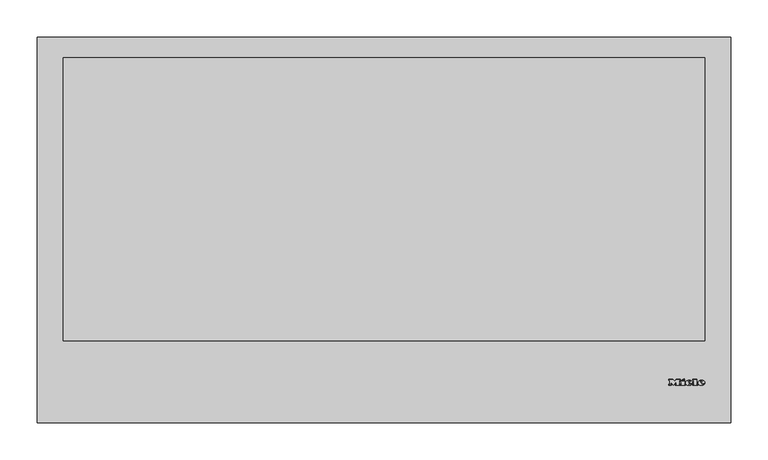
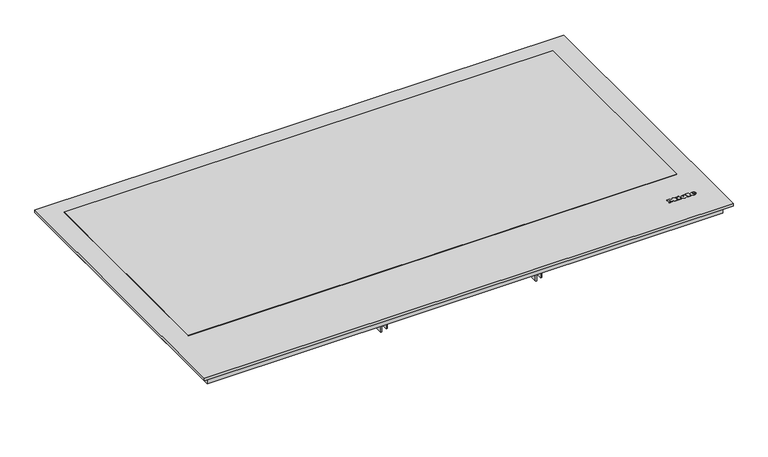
"""IFC4 building model written with IfcOpenShell, lengths in millimetres: proxy geometry, 11144090_GB_KM7697FL : 26769770_GB_11144090_KM7697FL."""

from ifc_helpers import new_model, si_unit, point, frame, frame_2d, origin, origin_with_axes, place, context, project, spatial, polyline, circle_curve, ellipse_curve, trimmed, segment, composite_curve, outline, extrude, source, transform, mapped, element, save
from ifc_brep_helpers import plane_surface, cylinder_surface, revolved_surface, extruded_surface, advanced_brep


def specialty_equipment_4523ea2d(model_context):
    return source(origin(), model_context, "Body", "SolidModel", [
        advanced_brep(
        [(427.56, 52.3948833, 4.4802537), (427.56, 53.2028828, 4.4811551), (432.912, 53.2028828, 4.4811551), (423.6, 53.2028828, 4.4811551), (425.8, 50.4988845, 4.4781386), (432.776, 52.3948833, 4.4802537), (430.36, 52.3948833, 4.4802537), (428.456, 51.4988838, 4.4792542), (427.56, 54.2268821, 4.4822974), (427.56, 55.0988816, 4.4832701), (428.928, 55.0988816, 4.4832701), (428.928, 54.2268821, 4.4822974), (427.56, 52.3959988, 3.4802543), (428.456, 51.4999994, 3.4792548), (430.36, 52.3959988, 3.4802543), (432.776, 52.3959988, 3.4802543), (425.8, 50.5, 3.4781393), (423.6, 53.2039983, 3.4811557), (432.912, 53.2039983, 3.4811557), (427.56, 53.2039983, 3.4811557), (427.56, 54.2279977, 3.482298), (428.928, 54.2279977, 3.482298), (428.928, 55.0999971, 3.4832707), (427.56, 55.0999971, 3.4832707)],
        [
            (0, 1),
            (1, 2),
            (2, 3, ellipse_curve(frame((428.256, 53.2028828, 4.4811551), z_axis=(0.0, -0.0011155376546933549, 0.9999993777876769), x_axis=(-1.0, 0.0, 0.0)), 4.656, 3.848)),
            (3, 4, circle_curve(frame((426.6960436, 53.4748826, 4.4814585), z_axis=(0.0, -0.0011155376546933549, 0.9999993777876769), x_axis=(0.0, -0.9999993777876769, -0.0011155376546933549)), 3.1079688)),
            (4, 5, circle_curve(frame((428.1627936, 55.5868813, 4.4838145), z_axis=(0.0, -0.0011155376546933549, 0.9999993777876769), x_axis=(0.0, -0.9999993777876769, -0.0011155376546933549)), 5.6098607)),
            (5, 6),
            (6, 7, circle_curve(frame((428.8470588, 53.1388828, 4.4810837), z_axis=(0.0, 0.0011155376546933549, -0.9999993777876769), x_axis=(0.0, -0.9999993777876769, -0.0011155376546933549)), 1.6859795)),
            (7, 0, circle_curve(frame((428.456, 52.3948833, 4.4802537), z_axis=(0.0, 0.0011155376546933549, -0.9999993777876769), x_axis=(0.0, -0.9999993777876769, -0.0011155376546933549)), 0.896)),
            (8, 9),
            (9, 10, circle_curve(frame((428.244, 55.0988816, 4.4832701), z_axis=(0.0, 0.0011155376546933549, -0.9999993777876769), x_axis=(0.0, -0.9999993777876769, -0.0011155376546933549)), 0.684)),
            (10, 11),
            (11, 8),
            (12, 13, circle_curve(frame((428.456, 52.3959988, 3.4802543), z_axis=(0.0, -0.0011155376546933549, 0.9999993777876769), x_axis=(0.0, -0.9999993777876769, -0.0011155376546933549)), 0.896)),
            (13, 14, circle_curve(frame((428.8470588, 53.1399984, 3.4810843), z_axis=(0.0, -0.0011155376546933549, 0.9999993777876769), x_axis=(0.0, -0.9999993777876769, -0.0011155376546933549)), 1.6859795)),
            (14, 15),
            (15, 16, circle_curve(frame((428.1627936, 55.5879968, 3.4838151), z_axis=(0.0, 0.0011155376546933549, -0.9999993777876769), x_axis=(0.0, -0.9999993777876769, -0.0011155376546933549)), 5.6098607)),
            (16, 17, circle_curve(frame((426.6960436, 53.4759981, 3.4814591), z_axis=(0.0, 0.0011155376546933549, -0.9999993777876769), x_axis=(0.0, -0.9999993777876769, -0.0011155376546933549)), 3.1079688)),
            (17, 18, ellipse_curve(frame((428.256, 53.2039983, 3.4811557), z_axis=(0.0, 0.0011155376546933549, -0.9999993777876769), x_axis=(-1.0, 0.0, 0.0)), 4.656, 3.848)),
            (18, 19),
            (19, 12),
            (20, 21),
            (21, 22),
            (22, 23, circle_curve(frame((428.244, 55.0999971, 3.4832707), z_axis=(0.0, -0.0011155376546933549, 0.9999993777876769), x_axis=(0.0, -0.9999993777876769, -0.0011155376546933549)), 0.684)),
            (23, 20),
            (0, 12),
            (19, 1),
            (18, 2),
            (5, 15),
            (14, 6),
            (17, 3),
            (13, 7),
            (16, 4),
            (8, 20),
            (23, 9),
            (22, 10),
            (21, 11),
        ],
        [
            plane_surface(frame((427.56, 53.2028828, 4.4811551), z_axis=(0.0, -0.0011155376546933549, 0.9999993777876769), x_axis=(0.0, 0.9999993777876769, 0.0011155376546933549))),
            plane_surface(frame((427.56, 53.2039983, 3.4811557), z_axis=(0.0, 0.0011155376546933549, -0.9999993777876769), x_axis=(0.0, -0.9999993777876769, -0.0011155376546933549))),
            plane_surface(frame((427.56, 52.3948833, 4.4802537), z_axis=(1.0000000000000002, 0.0, 0.0), x_axis=(0.0, 0.001115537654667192, -0.999999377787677))),
            plane_surface(frame((427.56, 53.2028828, 4.4811551), z_axis=(0.0, -0.999999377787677, -0.001115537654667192), x_axis=(0.0, 0.001115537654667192, -0.999999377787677))),
            plane_surface(frame((432.776, 52.3948833, 4.4802537), z_axis=(0.0, 0.999999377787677, 0.001115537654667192), x_axis=(0.0, 0.001115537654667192, -0.999999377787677))),
            extruded_surface(trimmed(ellipse_curve(frame((428.256, 53.2051139, 2.4811563), z_axis=(0.0, -0.0011155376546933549, 0.9999993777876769), x_axis=(-1.0, 0.0, 0.0)), 4.656, 3.848), [point((432.912, 53.2051139, 2.4811563))], [point((423.6, 53.2051139, 2.4811563))], True, "CARTESIAN"), (0.0, -0.001115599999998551, 0.9999994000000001), 1.00000002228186),
            revolved_surface(polyline([(428.8470588, 51.454019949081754, 3.479203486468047), (428.8470588, 51.45290441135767, 4.4792029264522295)]), (428.8470588, 53.1399984, 3.4810843), (0.0, 0.0011155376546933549, -0.9999993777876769)),
            revolved_surface(polyline([(428.456, 51.49999935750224, 3.4792547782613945), (428.456, 51.49888381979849, 4.479254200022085)]), (428.456, 52.3959988, 3.4802543), (0.0, 0.0011155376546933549, -0.9999993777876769)),
            cylinder_surface(frame((426.6960436, 53.4759981, 3.4814591), z_axis=(0.0, -0.0011155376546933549, 0.9999993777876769), x_axis=(0.0, -0.9999993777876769, -0.0011155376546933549)), 3.1079688),
            cylinder_surface(frame((428.1627936, 55.5879968, 3.4838151), z_axis=(0.0, -0.0011155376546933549, 0.9999993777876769), x_axis=(0.0, -0.9999993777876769, -0.0011155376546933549)), 5.6098607),
            plane_surface(frame((427.56, 54.2268821, 4.4822974), z_axis=(1.0000000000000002, 0.0, 0.0), x_axis=(0.0, 0.001115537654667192, -0.999999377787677))),
            revolved_surface(polyline([(428.244, 54.415997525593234, 3.4825076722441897), (428.244, 54.41488198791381, 4.482507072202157)]), (428.244, 55.0999971, 3.4832707), (0.0, 0.0011155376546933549, -0.9999993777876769)),
            plane_surface(frame((428.928, 55.0988816, 4.4832701), z_axis=(-1.0000000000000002, 0.0, 0.0), x_axis=(0.0, 0.001115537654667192, -0.999999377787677))),
            plane_surface(frame((428.928, 54.2268821, 4.4822974), z_axis=(0.0, 0.999999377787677, 0.001115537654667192), x_axis=(0.0, 0.001115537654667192, -0.999999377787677))),
        ],
        [
            (0, [[1, 2, 3, 4, 5, 6, 7, 8], [9, 10, 11, 12]]),
            (1, [[13, 14, 15, 16, 17, 18, 19, 20], [21, 22, 23, 24]]),
            (2, [[-1, 25, -20, 26]]),
            (3, [[-2, -26, -19, 27]]),
            (4, [[-6, 28, -15, 29]]),
            (5, [[-3, -27, -18, 30]]),
            (6, [[-7, -29, -14, 31]]),
            (7, [[-8, -31, -13, -25]]),
            (8, [[-4, -30, -17, 32]]),
            (9, [[-5, -32, -16, -28]]),
            (10, [[-9, 33, -24, 34]]),
            (11, [[-10, -34, -23, 35]]),
            (12, [[-11, -35, -22, 36]]),
            (13, [[-12, -36, -21, -33]]),
        ],
    ),
        advanced_brep(
        [(410.864, 52.3948833, 4.4802537), (410.864, 53.2028828, 4.4811551), (416.216, 53.2028828, 4.4811551), (406.904, 53.2028828, 4.4811551), (409.104, 50.4988845, 4.4781386), (416.08, 52.3948833, 4.4802537), (413.664, 52.3948833, 4.4802537), (411.76, 51.4988838, 4.4792542), (410.864, 54.2268821, 4.4822974), (410.864, 55.0988816, 4.4832701), (412.232, 55.0988816, 4.4832701), (412.232, 54.2268821, 4.4822974), (410.864, 52.3959988, 3.4802543), (411.76, 51.4999994, 3.4792548), (413.664, 52.3959988, 3.4802543), (416.08, 52.3959988, 3.4802543), (409.104, 50.5, 3.4781393), (406.904, 53.2039983, 3.4811557), (416.216, 53.2039983, 3.4811557), (410.864, 53.2039983, 3.4811557), (410.864, 54.2279977, 3.482298), (412.232, 54.2279977, 3.482298), (412.232, 55.0999971, 3.4832707), (410.864, 55.0999971, 3.4832707)],
        [
            (0, 1),
            (1, 2),
            (2, 3, ellipse_curve(frame((411.56, 53.2028828, 4.4811551), z_axis=(0.0, -0.0011155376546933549, 0.9999993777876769), x_axis=(-1.0, 0.0, 0.0)), 4.656, 3.848)),
            (3, 4, circle_curve(frame((410.0000436, 53.4748826, 4.4814585), z_axis=(0.0, -0.0011155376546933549, 0.9999993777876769), x_axis=(0.0, -0.9999993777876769, -0.0011155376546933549)), 3.1079688)),
            (4, 5, circle_curve(frame((411.4667936, 55.5868813, 4.4838145), z_axis=(0.0, -0.0011155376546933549, 0.9999993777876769), x_axis=(0.0, -0.9999993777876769, -0.0011155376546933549)), 5.6098607)),
            (5, 6),
            (6, 7, circle_curve(frame((412.1510588, 53.1388828, 4.4810837), z_axis=(0.0, 0.0011155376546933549, -0.9999993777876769), x_axis=(0.0, -0.9999993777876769, -0.0011155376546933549)), 1.6859795)),
            (7, 0, circle_curve(frame((411.76, 52.3948833, 4.4802537), z_axis=(0.0, 0.0011155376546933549, -0.9999993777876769), x_axis=(0.0, -0.9999993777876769, -0.0011155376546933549)), 0.896)),
            (8, 9),
            (9, 10, circle_curve(frame((411.548, 55.0988816, 4.4832701), z_axis=(0.0, 0.0011155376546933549, -0.9999993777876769), x_axis=(0.0, -0.9999993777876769, -0.0011155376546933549)), 0.684)),
            (10, 11),
            (11, 8),
            (12, 13, circle_curve(frame((411.76, 52.3959988, 3.4802543), z_axis=(0.0, -0.0011155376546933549, 0.9999993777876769), x_axis=(0.0, -0.9999993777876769, -0.0011155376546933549)), 0.896)),
            (13, 14, circle_curve(frame((412.1510588, 53.1399984, 3.4810843), z_axis=(0.0, -0.0011155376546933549, 0.9999993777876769), x_axis=(0.0, -0.9999993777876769, -0.0011155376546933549)), 1.6859795)),
            (14, 15),
            (15, 16, circle_curve(frame((411.4667936, 55.5879968, 3.4838151), z_axis=(0.0, 0.0011155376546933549, -0.9999993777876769), x_axis=(0.0, -0.9999993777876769, -0.0011155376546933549)), 5.6098607)),
            (16, 17, circle_curve(frame((410.0000436, 53.4759981, 3.4814591), z_axis=(0.0, 0.0011155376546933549, -0.9999993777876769), x_axis=(0.0, -0.9999993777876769, -0.0011155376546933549)), 3.1079688)),
            (17, 18, ellipse_curve(frame((411.56, 53.2039983, 3.4811557), z_axis=(0.0, 0.0011155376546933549, -0.9999993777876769), x_axis=(-1.0, 0.0, 0.0)), 4.656, 3.848)),
            (18, 19),
            (19, 12),
            (20, 21),
            (21, 22),
            (22, 23, circle_curve(frame((411.548, 55.0999971, 3.4832707), z_axis=(0.0, -0.0011155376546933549, 0.9999993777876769), x_axis=(0.0, -0.9999993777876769, -0.0011155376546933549)), 0.684)),
            (23, 20),
            (0, 12),
            (19, 1),
            (18, 2),
            (5, 15),
            (14, 6),
            (17, 3),
            (13, 7),
            (16, 4),
            (8, 20),
            (23, 9),
            (22, 10),
            (21, 11),
        ],
        [
            plane_surface(frame((410.864, 53.2028828, 4.4811551), z_axis=(0.0, -0.0011155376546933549, 0.9999993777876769), x_axis=(0.0, 0.9999993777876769, 0.0011155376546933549))),
            plane_surface(frame((410.864, 53.2039983, 3.4811557), z_axis=(0.0, 0.0011155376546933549, -0.9999993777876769), x_axis=(0.0, -0.9999993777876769, -0.0011155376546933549))),
            plane_surface(frame((410.864, 52.3948833, 4.4802537), z_axis=(1.0000000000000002, 0.0, 0.0), x_axis=(0.0, 0.001115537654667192, -0.999999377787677))),
            plane_surface(frame((410.864, 53.2028828, 4.4811551), z_axis=(0.0, -0.999999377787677, -0.001115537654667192), x_axis=(0.0, 0.001115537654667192, -0.999999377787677))),
            plane_surface(frame((416.08, 52.3948833, 4.4802537), z_axis=(0.0, 0.999999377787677, 0.001115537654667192), x_axis=(0.0, 0.001115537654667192, -0.999999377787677))),
            extruded_surface(trimmed(ellipse_curve(frame((411.56, 53.2051139, 2.4811563), z_axis=(0.0, -0.0011155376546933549, 0.9999993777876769), x_axis=(-1.0, 0.0, 0.0)), 4.656, 3.848), [point((416.216, 53.2051139, 2.4811563))], [point((406.904, 53.2051139, 2.4811563))], True, "CARTESIAN"), (0.0, -0.001115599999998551, 0.9999994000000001), 1.00000002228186),
            revolved_surface(polyline([(412.1510588, 51.454019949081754, 3.479203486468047), (412.1510588, 51.45290441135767, 4.4792029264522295)]), (412.1510588, 53.1399984, 3.4810843), (0.0, 0.0011155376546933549, -0.9999993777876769)),
            revolved_surface(polyline([(411.76, 51.49999935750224, 3.4792547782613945), (411.76, 51.49888381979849, 4.479254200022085)]), (411.76, 52.3959988, 3.4802543), (0.0, 0.0011155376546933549, -0.9999993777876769)),
            cylinder_surface(frame((410.0000436, 53.4759981, 3.4814591), z_axis=(0.0, -0.0011155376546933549, 0.9999993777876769), x_axis=(0.0, -0.9999993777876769, -0.0011155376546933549)), 3.1079688),
            cylinder_surface(frame((411.4667936, 55.5879968, 3.4838151), z_axis=(0.0, -0.0011155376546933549, 0.9999993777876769), x_axis=(0.0, -0.9999993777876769, -0.0011155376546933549)), 5.6098607),
            plane_surface(frame((410.864, 54.2268821, 4.4822974), z_axis=(1.0000000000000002, 0.0, 0.0), x_axis=(0.0, 0.001115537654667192, -0.999999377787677))),
            revolved_surface(polyline([(411.548, 54.415997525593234, 3.4825076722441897), (411.548, 54.41488198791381, 4.482507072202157)]), (411.548, 55.0999971, 3.4832707), (0.0, 0.0011155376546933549, -0.9999993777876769)),
            plane_surface(frame((412.232, 55.0988816, 4.4832701), z_axis=(-1.0000000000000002, 0.0, 0.0), x_axis=(0.0, 0.001115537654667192, -0.999999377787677))),
            plane_surface(frame((412.232, 54.2268821, 4.4822974), z_axis=(0.0, 0.999999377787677, 0.001115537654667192), x_axis=(0.0, 0.001115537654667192, -0.999999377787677))),
        ],
        [
            (0, [[1, 2, 3, 4, 5, 6, 7, 8], [9, 10, 11, 12]]),
            (1, [[13, 14, 15, 16, 17, 18, 19, 20], [21, 22, 23, 24]]),
            (2, [[-1, 25, -20, 26]]),
            (3, [[-2, -26, -19, 27]]),
            (4, [[-6, 28, -15, 29]]),
            (5, [[-3, -27, -18, 30]]),
            (6, [[-7, -29, -14, 31]]),
            (7, [[-8, -31, -13, -25]]),
            (8, [[-4, -30, -17, 32]]),
            (9, [[-5, -32, -16, -28]]),
            (10, [[-9, 33, -24, 34]]),
            (11, [[-10, -34, -23, 35]]),
            (12, [[-11, -35, -22, 36]]),
            (13, [[-12, -36, -21, -33]]),
        ],
    ),
        extrude(outline(polyline([(0.0, 0.0), (-0.0109086, -2.9993294), (-1.4390415, -2.9920868), (-1.4315307, 0.0), (0.0, 0.0)])), frame((402.12, 58.0279953, 3.486537), z_axis=(0.0, -0.001115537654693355, 0.999999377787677), x_axis=(-0.4247202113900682, 0.9053240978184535, 0.0010099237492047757)), (0.0, 0.0, 1.0), 1.0),
        extrude(outline(polyline([(-0.4933908, 2.4141097), (-2.7800844, -2.4601583), (-7.0459741, -0.4588767), (-7.4401145, -1.299018), (-8.6568709, -0.728194), (-5.9760369, 4.9862153), (-4.7592805, 4.4153913), (-5.1636142, 3.5535222), (-2.1941493, 2.1604399), (-1.7898157, 3.022309), (-0.4933908, 2.4141097)])), frame((402.12, 58.0279953, 3.486537), z_axis=(0.0, -0.001115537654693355, 0.999999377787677), x_axis=(-0.4247202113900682, 0.9053240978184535, 0.0010099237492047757)), (0.0, 0.0, 1.0), 1.0),
        extrude(outline(polyline([(0.0, 0.0), (0.0, -1.304), (-5.504, -1.304), (-5.504, 5.3519999), (-6.488, 5.3519999), (-6.488, 6.696), (0.0, 6.696), (0.0, 5.3519999), (-0.96, 5.3519999), (-0.96, 0.0), (0.0, 0.0)])), frame((416.664, 57.1959958, 3.4856089), z_axis=(0.0, -0.0011155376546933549, 0.9999993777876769), x_axis=(-1.0, 0.0, 0.0)), (0.0, 0.0, 1.0), 1.0),
        extrude(outline(polyline([(0.0, 0.0), (0.0, -1.304), (-5.576, -1.304), (-7.92, 1.696), (-10.256, -1.304), (-15.128, -1.304), (-15.128, 0.0), (-14.112, 0.0), (-14.112, 5.3519999), (-15.128, 5.3519999), (-15.128, 6.696), (-8.744, 6.696), (-8.744, 5.3519999), (-9.728, 5.3519999), (-9.728, 1.8807777), (-6.136, 6.696), (-2.56, 1.9488752), (-2.56, 5.3519999), (-3.52, 5.3519999), (-3.52, 6.696), (0.0, 6.696), (0.0, 5.3519999), (-0.968, 5.3519999), (-0.968, 0.0), (0.0, 0.0)])), frame((384.2, 57.1959958, 3.4856089), z_axis=(0.0, -0.0011155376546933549, 0.9999993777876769), x_axis=(-1.0, 0.0, 0.0)), (0.0, 0.0, 1.0), 1.0),
        extrude(outline(polyline([(354.2772603, 459.5), (346.9, 459.5), (346.9, 460.7557039), (353.0215564, 460.7557039), (353.0215564, 464.0519266), (347.370889, 464.0519266), (347.370889, 465.3076304), (353.0215564, 465.3076304), (353.0215564, 468.2899271), (347.056963, 468.2899271), (347.056963, 469.545631), (354.2772603, 469.545631), (354.2772603, 459.5)])), frame((0.0, 0.0, -77.5), z_axis=(0.0, 0.0, 1.0), x_axis=(1.0, 0.0, 0.0)), (0.0, 0.0, 1.0), 1.0),
        extrude(outline(polyline([(345.0164442, 459.5), (338.7379248, 459.5), (338.7379248, 460.7557039), (343.7607403, 460.7557039), (343.7607403, 469.545631), (345.0164442, 469.545631), (345.0164442, 459.5)])), frame((0.0, 0.0, -77.5), z_axis=(0.0, 0.0, 1.0), x_axis=(1.0, 0.0, 0.0)), (0.0, 0.0, 1.0), 1.0),
        extrude(outline(polyline([(14.0, -27.0), (14.0, -16.8), (58.0, -16.8), (58.0, -43.0), (30.0, -43.0), (30.0, -27.0), (14.0, -27.0)])), frame((135.3333333, 0.0, 0.0), z_axis=(1.0, 0.0, 0.0), x_axis=(0.0, 1.0, 0.0)), (0.0, 0.0, 1.0), 2.0),
        extrude(outline(polyline([(478.0, -16.8), (506.0, -16.8), (506.0, -27.0), (490.0, -27.0), (490.0, -43.0), (478.0, -43.0), (478.0, -16.8)])), frame((135.3333333, 0.0, 0.0), z_axis=(1.0, 0.0, 0.0), x_axis=(0.0, 1.0, 0.0)), (0.0, 0.0, 1.0), 2.0),
        extrude(outline(polyline([(14.0, -27.0), (14.0, -16.8), (58.0, -16.8), (58.0, -43.0), (30.0, -43.0), (30.0, -27.0), (14.0, -27.0)])), frame((-138.3333333, 0.0, 0.0), z_axis=(1.0, 0.0, 0.0), x_axis=(0.0, 1.0, 0.0)), (0.0, 0.0, 1.0), 2.0),
        extrude(outline(polyline([(490.0, -27.0), (490.0, -43.0), (478.0, -43.0), (478.0, -16.8), (506.0, -16.8), (506.0, -27.0), (490.0, -27.0)])), frame((-138.3333333, 0.0, 0.0), z_axis=(1.0, 0.0, 0.0), x_axis=(0.0, 1.0, 0.0)), (0.0, 0.0, 1.0), 2.0),
        extrude(outline(polyline([(409.0, 478.0), (409.0, 58.0), (-409.0, 58.0), (-409.0, 478.0), (409.0, 478.0)])), frame((0.0, 0.0, -46.5), z_axis=(0.0, 0.0, 1.0), x_axis=(1.0, 0.0, 0.0)), (0.0, 0.0, 1.0), 29.7),
        extrude(outline(polyline([(468.0, 520.0), (468.0, 0.0), (-468.0, 0.0), (-468.0, 520.0), (468.0, 520.0)])), origin_with_axes(), (0.0, 0.0, 1.0), 4.0),
        extrude(outline(polyline([(456.5, 508.5), (456.5, 11.5), (-456.5, 11.5), (-456.5, 508.5), (456.5, 508.5)])), frame((0.0, 0.0, -16.8), z_axis=(0.0, 0.0, 1.0), x_axis=(1.0, 0.0, 0.0)), (0.0, 0.0, 1.0), 16.8),
        extrude(outline(composite_curve([segment(trimmed(circle_curve(frame_2d((346.9, 464.5)), 7.5), [point((346.9, 472.0))], [point((346.9, 457.0))], False, "CARTESIAN"), True, "CONTINUOUS"), segment(trimmed(circle_curve(frame_2d((346.9, 464.5)), 7.5), [point((346.9, 457.0))], [point((346.9, 472.0))], False, "CARTESIAN"), True, "CONTINUOUS")], self_intersect=False)), frame((0.0, 0.0, -76.5), z_axis=(0.0, 0.0, 1.0), x_axis=(1.0, 0.0, 0.0)), (0.0, 0.0, 1.0), 30.0),
        extrude(outline(polyline([(432.5, 492.05), (432.5, 110.55), (-432.5, 110.55), (-432.5, 492.05), (432.5, 492.05)])), frame((0.0, 0.0, 4.0), z_axis=(0.0, 0.0, 1.0), x_axis=(1.0, 0.0, 0.0)), (0.0, 0.0, 1.0), 1.0),
        extrude(outline(composite_curve([segment(trimmed(circle_curve(frame_2d((-449.0, 80.0)), 3.0), [point((-449.0, 83.0))], [point((-449.0, 77.0))], False, "CARTESIAN"), True, "CONTINUOUS"), segment(trimmed(circle_curve(frame_2d((-449.0, 80.0)), 3.0), [point((-449.0, 77.0))], [point((-449.0, 83.0))], False, "CARTESIAN"), True, "CONTINUOUS")], self_intersect=False)), frame((0.0, 0.0, -22.0), z_axis=(0.0, 0.0, 1.0), x_axis=(1.0, 0.0, 0.0)), (0.0, 0.0, 1.0), 5.2),
        extrude(outline(composite_curve([segment(trimmed(circle_curve(frame_2d((449.0, 440.0)), 3.0), [point((449.0, 443.0))], [point((449.0, 437.0))], False, "CARTESIAN"), True, "CONTINUOUS"), segment(trimmed(circle_curve(frame_2d((449.0, 440.0)), 3.0), [point((449.0, 437.0))], [point((449.0, 443.0))], False, "CARTESIAN"), True, "CONTINUOUS")], self_intersect=False)), frame((0.0, 0.0, -22.0), z_axis=(0.0, 0.0, 1.0), x_axis=(1.0, 0.0, 0.0)), (0.0, 0.0, 1.0), 5.2),
    ])


if __name__ == "__main__":
    model = new_model("IFC4")
    model_context = context("Model", 3, world=origin())
    ifc_project = project(units=[si_unit("LENGTHUNIT", "METRE", prefix="MILLI")], contexts=[model_context])
    site = spatial("IfcSite", under=ifc_project)
    building = spatial("IfcBuilding", under=site)
    placement = place(None, origin())
    specialty_equipment_shape = specialty_equipment_4523ea2d(model_context)
    element("IfcBuildingElementProxy", 1, Name="11144090_GB_KM7697FL : 26769770_GB_11144090_KM7697FL", ObjectType="11144090_GB_KM7697FL : 26769770_GB_11144090_KM7697FL", at=placement, inside=building, context=model_context, shape_type="MappedRepresentation", body=[
        mapped(specialty_equipment_shape, transform((0.0, 0.0, 0.0), x_axis=(1.0, 0.0, 0.0), y_axis=(0.0, 1.0, 0.0), z_axis=(0.0, 0.0, 1.0))),
    ])
    save(model, "model.ifc")
